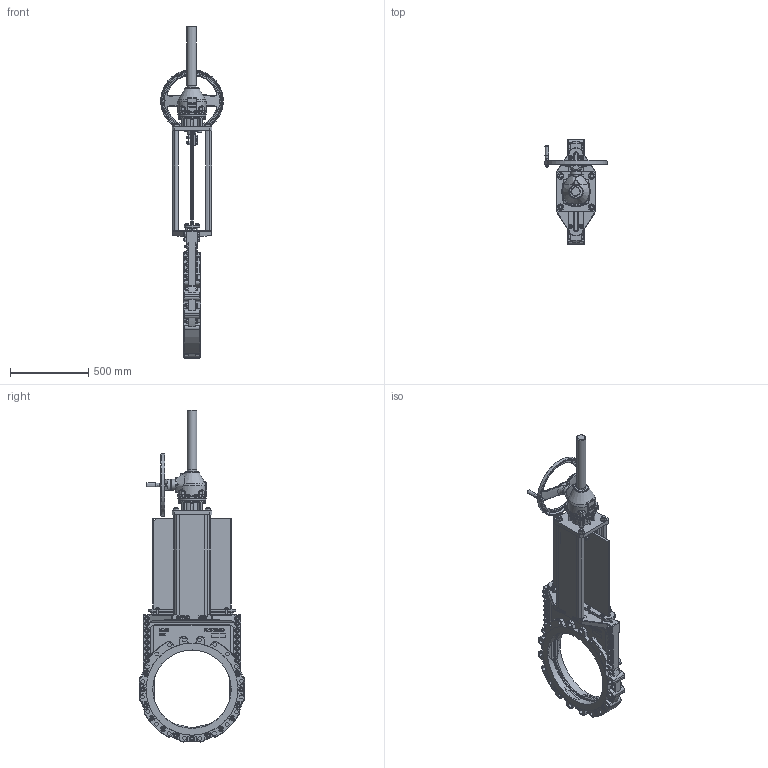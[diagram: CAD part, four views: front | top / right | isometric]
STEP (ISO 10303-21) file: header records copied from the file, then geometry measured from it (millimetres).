
FILE_DESCRIPTION(/* description */ (''),/* implementation_level */ '2;1');
FILE_NAME(/* name */ 'F:\3D Sammanställningar\WB\DN500\WB14E-WED-DN500-ANSI 150- AUMA GK14.stp',/* time_stamp */ '2021-06-30T16:32:52+02:00',/* author */ ('MATZET'),/* organization */ (''),/* preprocessor_version */ 'ST-DEVELOPER v18',/* originating_system */ 'Autodesk Inventor 2020',/* authorisation */ '');
FILE_SCHEMA (('AUTOMOTIVE_DESIGN { 1 0 10303 214 3 1 1 }'));
Products named in the file (1): WB14E-WED-DN500-ANSI 150- AUMA GK14_Shrinkwrap_1
Bounding box: 400 x 673.6 x 2117.33 mm (x, y, z)
Volume: 43013548.3 mm3; surface area: 4799393.9 mm2
Topology: 1 solids, 2 shells, 4725 faces, 12132 edges, 7852 vertices
Faces by surface type: plane 2321, cylinder 901, bspline 712, cone 459, torus 256, sphere 76
Full cylindrical faces by diameter (mm): 2 x2, 4 x2, 4.3 x2, 4.5 x4, 7 x2, 8.376 x2, 10 x2, 10.106 x8, 11 x4, 12 x8, 13 x8, 14 x3, 14.63 x2, 16 x34, 17.294 x4, 18 x9, 20 x12, 21 x4, 22 x4, 22.49 x29, 24 x9, 24.638 x40, 25 x1, 26 x4, 28.3 x2, 29 x3, 30 x65, 33 x46, 36 x9, 37 x4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
Entity records: 258660 total; most frequent: CARTESIAN_POINT 144436, ORIENTED_EDGE 24156, DIRECTION 21017, EDGE_CURVE 12078, VERTEX_POINT 7852, AXIS2_PLACEMENT_3D 7562, LINE 5893, VECTOR 5893
